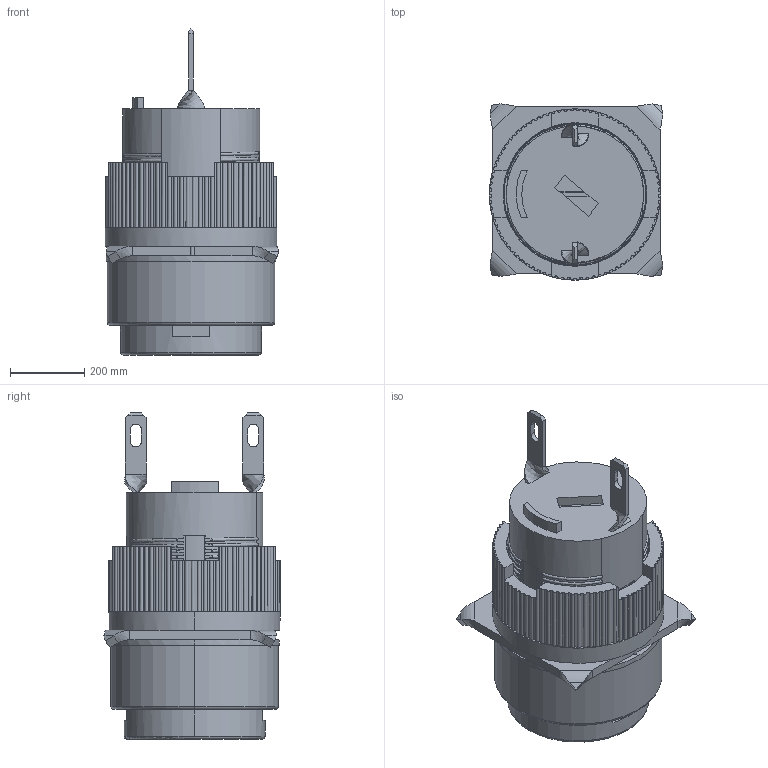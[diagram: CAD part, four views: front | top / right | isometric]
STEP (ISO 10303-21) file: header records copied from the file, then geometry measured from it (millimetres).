
FILE_DESCRIPTION((''),'2;1');
FILE_NAME('ASM0001_ASM','2016-06-03T',('Administrator'),(''),'PRO/ENGINEER BY PARAMETRIC TECHNOLOGY CORPORATION, 2012360','PRO/ENGINEER BY PARAMETRIC TECHNOLOGY CORPORATION, 2012360','');
FILE_SCHEMA(('CONFIG_CONTROL_DESIGN'));
Length unit declared in the file: inch
Products named in the file (1): ASM0001_ASM
Bounding box: 467.83 x 476.03 x 880.72 mm (x, y, z)
Volume: 91372228.4 mm3; surface area: 2549473.8 mm2
Topology: 1 solids, 11 shells, 707 faces, 1870 edges, 1194 vertices
Faces by surface type: cylinder 332, plane 284, bspline 85, torus 4, sphere 2
Entity records: 33961 total; most frequent: CARTESIAN_POINT 16898, ORIENTED_EDGE 3736, DIRECTION 3373, EDGE_CURVE 1868, AXIS2_PLACEMENT_3D 1287, VERTEX_POINT 1194, VECTOR 799, LINE 799
